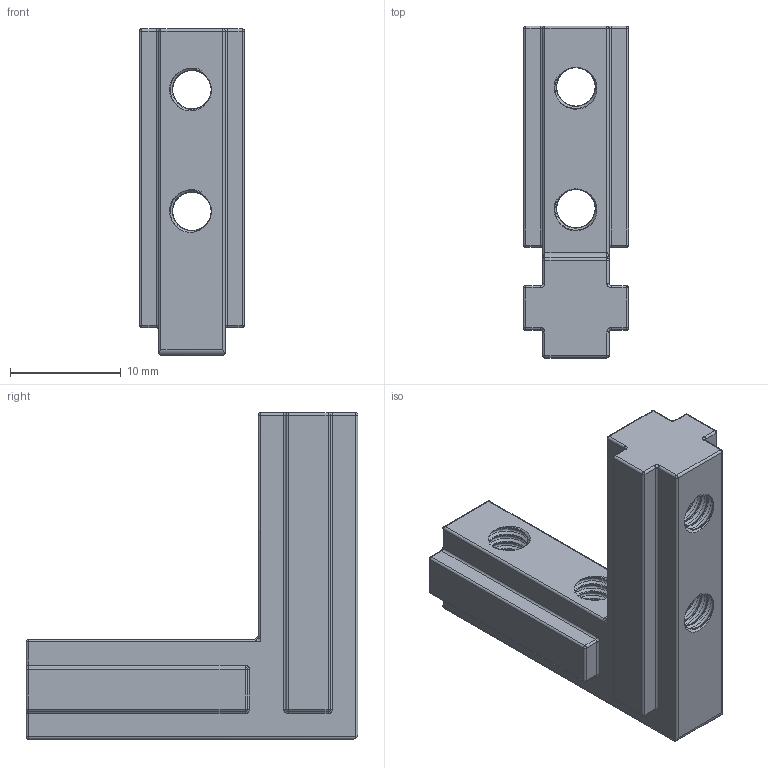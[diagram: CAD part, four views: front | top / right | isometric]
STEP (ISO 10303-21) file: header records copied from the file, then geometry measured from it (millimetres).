
FILE_DESCRIPTION (( 'STEP AP214' ), '1' );
FILE_NAME ('2011.STEP', '2017-08-09T05:50:00', ( '' ), ( '' ), 'SwSTEP 2.0', 'SolidWorks 2014', '' );
FILE_SCHEMA (( 'AUTOMOTIVE_DESIGN' ));
Length unit declared in the file: millimetre
Products named in the file (2): 2011
Bounding box: 9.52 x 30 x 29.5 mm (x, y, z)
Volume: 2977.1 mm3; surface area: 2390.5 mm2
Topology: 1 solids, 1 shells, 154 faces, 372 edges, 194 vertices
Faces by surface type: cylinder 66, bspline 24, plane 24, sphere 24, torus 16
Entity records: 32097 total; most frequent: CARTESIAN_POINT 28814, ORIENTED_EDGE 692, DIRECTION 668, EDGE_CURVE 346, AXIS2_PLACEMENT_3D 268, VERTEX_POINT 194, EDGE_LOOP 162, ADVANCED_FACE 154
